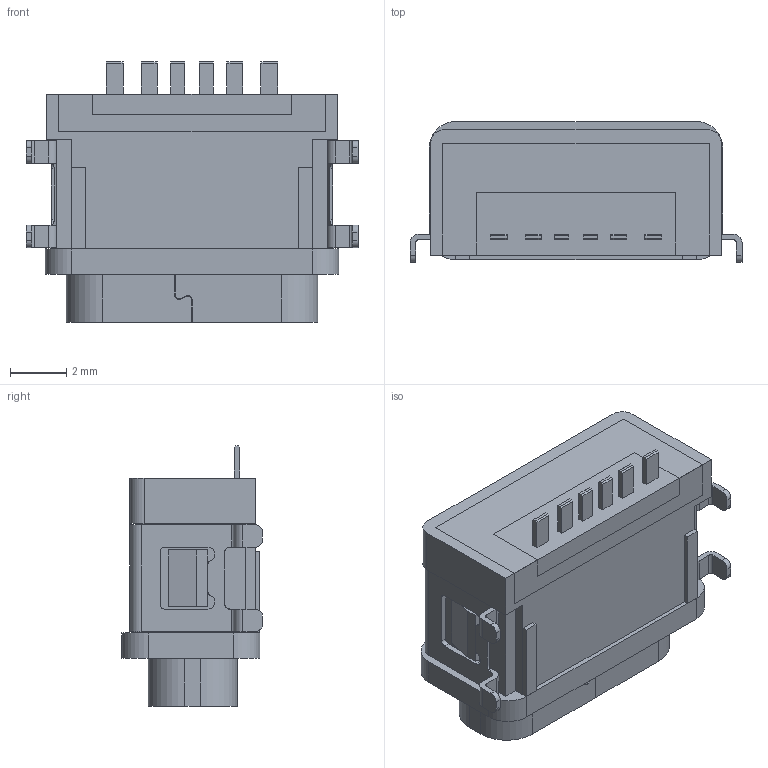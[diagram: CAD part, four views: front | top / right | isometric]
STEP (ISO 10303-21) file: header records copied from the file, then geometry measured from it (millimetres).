
FILE_DESCRIPTION((''),'2;1');
FILE_NAME('1020007','2023-03-03T17:16:09',('Administrator'),(''),'CREO PARAMETRIC BY PTC INC, 2019224','CREO PARAMETRIC BY PTC INC, 2019224','');
FILE_SCHEMA(('CONFIG_CONTROL_DESIGN'));
Length unit declared in the file: millimetre
Products named in the file (1): 1020007
Bounding box: 11.8 x 5.01 x 9.25 mm (x, y, z)
Volume: 165.7 mm3; surface area: 996.6 mm2
Topology: 4 solids, 5 shells, 819 faces, 2283 edges, 1506 vertices
Faces by surface type: plane 651, cylinder 152, cone 16
Entity records: 26084 total; most frequent: CARTESIAN_POINT 4682, ORIENTED_EDGE 4548, DIRECTION 4223, EDGE_CURVE 2283, VECTOR 1951, LINE 1951, VERTEX_POINT 1506, AXIS2_PLACEMENT_3D 1136
